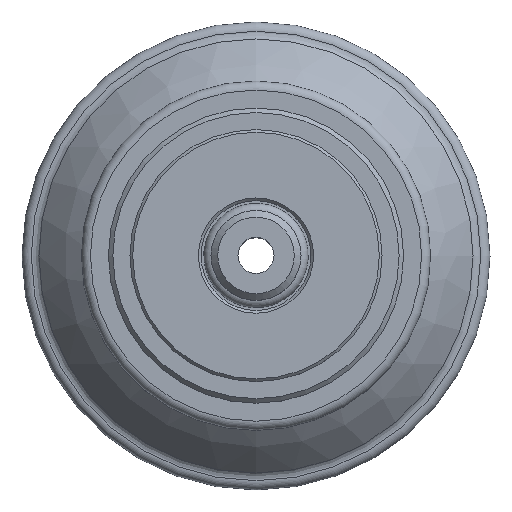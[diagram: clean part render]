
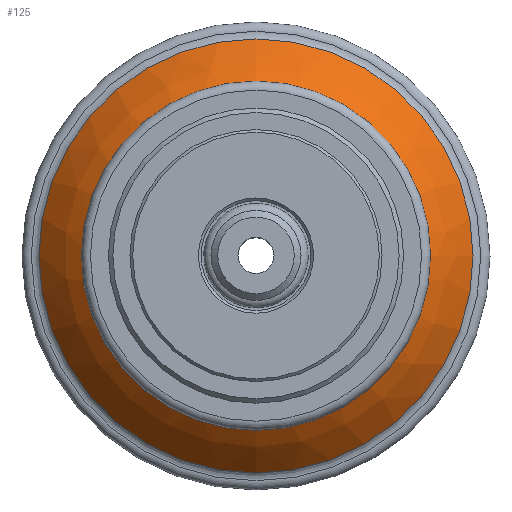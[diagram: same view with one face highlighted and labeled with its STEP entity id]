
A CAD part, top view. The second image highlights one B-rep face of the part: STEP entity #125.
In plain terms, the highlighted spherical face has radius 29.577 mm.
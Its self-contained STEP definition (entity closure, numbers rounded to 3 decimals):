
#125 = ADVANCED_FACE( '', ( #297, #298 ), #299, .T. );
#297 = FACE_OUTER_BOUND( '', #596, .T. );
#298 = FACE_OUTER_BOUND( '', #597, .T. );
#299 = SPHERICAL_SURFACE( '', #598, 29.577 );
#596 = EDGE_LOOP( '', ( #956 ) );
#597 = EDGE_LOOP( '', ( #957 ) );
#598 = AXIS2_PLACEMENT_3D( '', #958, #959, #960 );
#956 = ORIENTED_EDGE( '', *, *, #1362, .T. );
#957 = ORIENTED_EDGE( '', *, *, #1363, .F. );
#958 = CARTESIAN_POINT( '', ( 0., 0., -28.976 ) );
#959 = DIRECTION( '', ( 0., 0., 1. ) );
#960 = DIRECTION( '', ( 1., 0., 0. ) );
#1362 = EDGE_CURVE( '', #1505, #1505, #1506, .T. );
#1363 = EDGE_CURVE( '', #1507, #1507, #1508, .T. );
#1505 = VERTEX_POINT( '', #1713 );
#1506 = CIRCLE( '', #1714, 24.116 );
#1507 = VERTEX_POINT( '', #1715 );
#1508 = CIRCLE( '', #1716, 17.831 );
#1713 = CARTESIAN_POINT( '', ( 24.116, 0., -11.853 ) );
#1714 = AXIS2_PLACEMENT_3D( '', #1922, #1923, #1924 );
#1715 = CARTESIAN_POINT( '', ( 17.831, 0., -5.379 ) );
#1716 = AXIS2_PLACEMENT_3D( '', #1925, #1926, #1927 );
#1922 = CARTESIAN_POINT( '', ( 0., 0., -11.853 ) );
#1923 = DIRECTION( '', ( 0., 0., 1. ) );
#1924 = DIRECTION( '', ( 1., 0., 0. ) );
#1925 = CARTESIAN_POINT( '', ( 0., 0., -5.379 ) );
#1926 = DIRECTION( '', ( 0., 0., 1. ) );
#1927 = DIRECTION( '', ( 1., 0., 0. ) );
